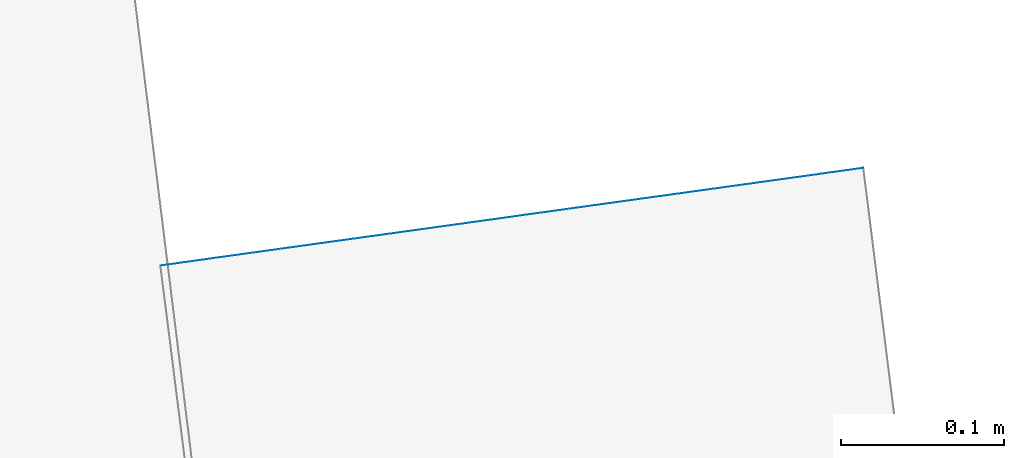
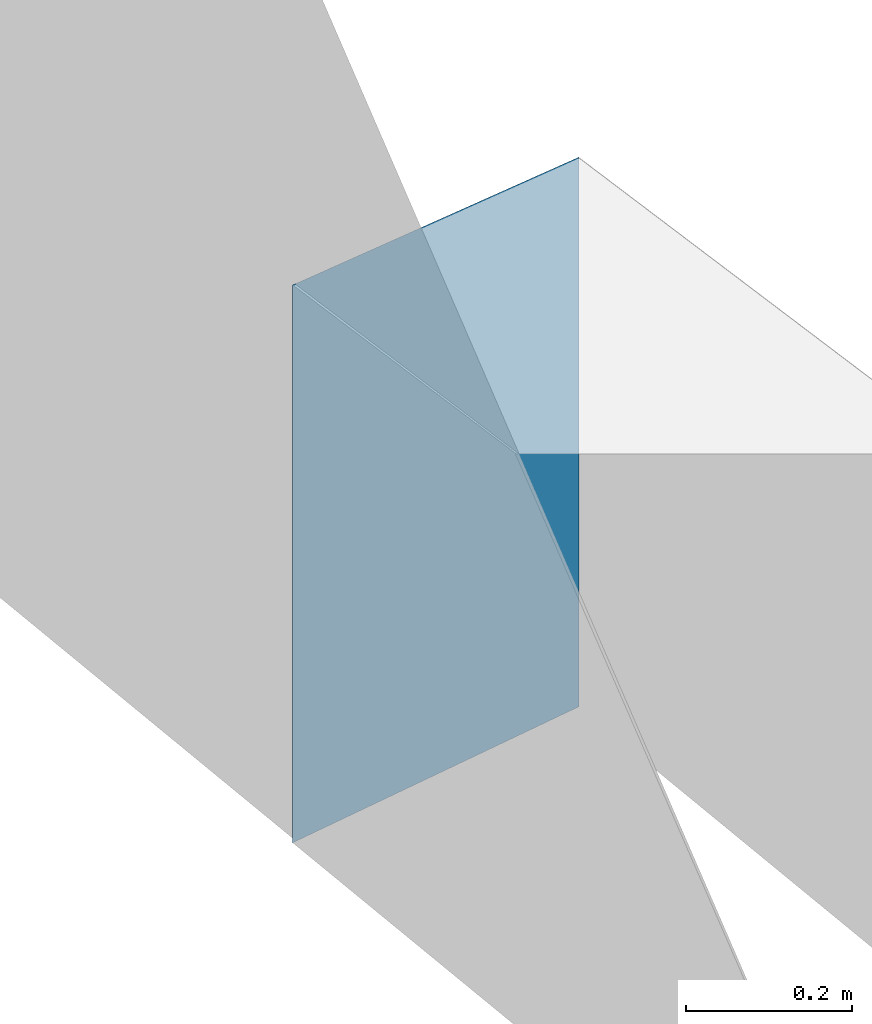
# Not in any storey, part 43 of 57: 1 wall.
"""IFC4 building model written with IfcOpenShell, lengths in metres."""

from ifc_helpers import new_model, entity, si_unit, converted_unit, origin, place, context, subcontext, project, spatial, face_set, surface_model, element, save


model = new_model("IFC4")

# Units and contexts
model_context = context("Model", 3, precision=1e-05, world=origin())
body_context = subcontext(model_context, "Body", "Model", "MODEL_VIEW")
ifc_project = project(units=[converted_unit("PLANEANGLEUNIT", "DEGREE", entity("IfcRatioMeasure", 0.0174532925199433), si_unit("PLANEANGLEUNIT", "RADIAN"), dimensions=[0, 0, 0, 0, 0, 0, 0]), si_unit("AREAUNIT", "SQUARE_METRE"), si_unit("LENGTHUNIT", "METRE")], contexts=[model_context])

# Site, building
site_placement = place(None, origin())
site = spatial("IfcSite", under=ifc_project, at=site_placement, Name="_site")
building_placement = place(site_placement, origin())
building = spatial("IfcBuilding", under=site, at=building_placement, Name="_building")

# Wall
wall_placement = place(building_placement, origin())
element("IfcWall", 1, at=wall_placement, inside=building, Name="Wall", PredefinedType="NOTDEFINED", context=body_context, shape_type="SurfaceModel", body=[
    surface_model("IfcFaceBasedSurfaceModel", [(99.361, 110.436, 112.69), (99.793, 110.496, 112.69), (99.793, 110.496, 111.883), (99.361, 110.436, 111.871)], [face_set([[[0, 1, 2, 3]]])]),
])

save(model, "model.ifc")
